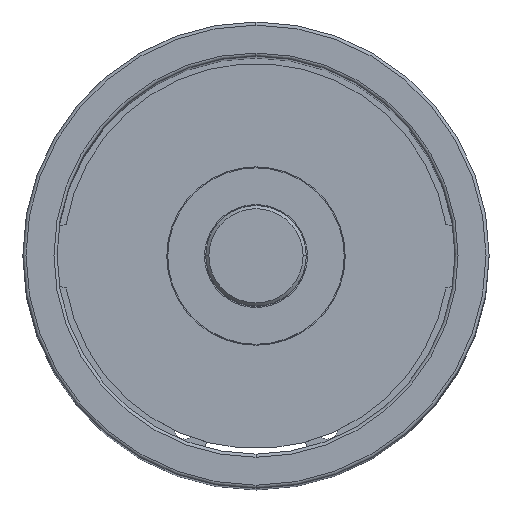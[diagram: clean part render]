
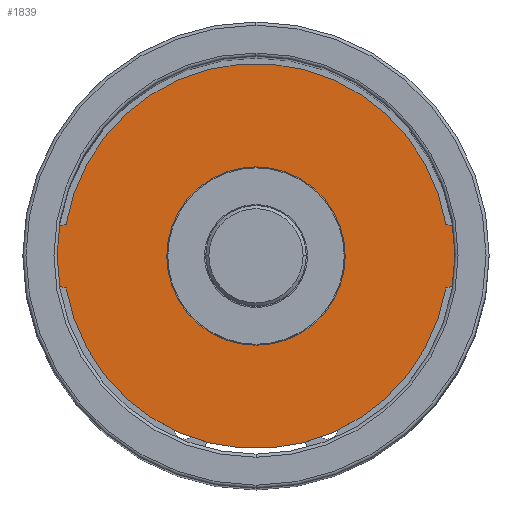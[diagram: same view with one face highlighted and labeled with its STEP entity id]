
A CAD part, top view. The second image highlights one B-rep face of the part: STEP entity #1839.
In plain terms, the highlighted planar face has unit normal (0, 0, 1).
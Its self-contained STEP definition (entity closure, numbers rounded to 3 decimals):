
#1701=CARTESIAN_POINT('',(14.2,0.,0.));
#1702=VERTEX_POINT('',#1701);
#1718=CARTESIAN_POINT('',(-14.2,0.,0.0));
#1719=VERTEX_POINT('',#1718);
#1726=CARTESIAN_POINT('',(0.0,0.,0.));
#1727=DIRECTION('',(0.0,0.0,-1.0));
#1728=DIRECTION('',(1.0,0.0,0.0));
#1729=AXIS2_PLACEMENT_3D('',#1726,#1727,#1728);
#1730=CIRCLE('',#1729,14.2);
#1731=EDGE_CURVE('',#1702,#1719,#1730,.T.);
#1742=CARTESIAN_POINT('',(0.0,0.,0.));
#1743=DIRECTION('',(0.0,0.0,-1.0));
#1744=DIRECTION('',(1.0,0.0,0.0));
#1745=AXIS2_PLACEMENT_3D('',#1742,#1743,#1744);
#1746=CIRCLE('',#1745,14.2);
#1747=EDGE_CURVE('',#1719,#1702,#1746,.T.);
#1767=CARTESIAN_POINT('',(-30.226,5.082,0.));
#1768=VERTEX_POINT('',#1767);
#1784=CARTESIAN_POINT('',(-30.226,-5.082,0.));
#1785=VERTEX_POINT('',#1784);
#1792=CARTESIAN_POINT('',(-29.125,0.,0.));
#1793=DIRECTION('',(0.0,0.0,-1.0));
#1794=DIRECTION('',(1.0,0.0,0.0));
#1795=AXIS2_PLACEMENT_3D('',#1792,#1793,#1794);
#1796=CIRCLE('',#1795,5.2);
#1797=EDGE_CURVE('',#1785,#1768,#1796,.T.);
#1802=CARTESIAN_POINT('',(0.0,0.,0.));
#1803=DIRECTION('',(0.0,0.0,1.0));
#1804=DIRECTION('',(1.0,0.0,0.0));
#1805=AXIS2_PLACEMENT_3D('',#1802,#1803,#1804);
#1806=PLANE('',#1805);
#1807=CARTESIAN_POINT('',(30.226,-5.082,0.));
#1808=VERTEX_POINT('',#1807);
#1809=CARTESIAN_POINT('',(0.0,0.,0.));
#1810=DIRECTION('',(0.0,0.0,-1.0));
#1811=DIRECTION('',(1.0,0.0,0.0));
#1812=AXIS2_PLACEMENT_3D('',#1809,#1810,#1811);
#1813=CIRCLE('',#1812,30.65);
#1814=EDGE_CURVE('',#1808,#1785,#1813,.T.);
#1815=ORIENTED_EDGE('',*,*,#1814,.F.);
#1816=CARTESIAN_POINT('',(30.226,5.082,0.));
#1817=VERTEX_POINT('',#1816);
#1818=CARTESIAN_POINT('',(29.125,0.,0.));
#1819=DIRECTION('',(0.0,0.0,-1.0));
#1820=DIRECTION('',(1.0,0.0,0.0));
#1821=AXIS2_PLACEMENT_3D('',#1818,#1819,#1820);
#1822=CIRCLE('',#1821,5.2);
#1823=EDGE_CURVE('',#1817,#1808,#1822,.T.);
#1824=ORIENTED_EDGE('',*,*,#1823,.F.);
#1825=CARTESIAN_POINT('',(0.0,0.,0.));
#1826=DIRECTION('',(0.0,0.0,-1.0));
#1827=DIRECTION('',(1.0,0.0,0.0));
#1828=AXIS2_PLACEMENT_3D('',#1825,#1826,#1827);
#1829=CIRCLE('',#1828,30.65);
#1830=EDGE_CURVE('',#1768,#1817,#1829,.T.);
#1831=ORIENTED_EDGE('',*,*,#1830,.F.);
#1832=ORIENTED_EDGE('',*,*,#1797,.F.);
#1833=EDGE_LOOP('',(#1815,#1824,#1831,#1832));
#1834=FACE_OUTER_BOUND('',#1833,.T.);
#1835=ORIENTED_EDGE('',*,*,#1731,.T.);
#1836=ORIENTED_EDGE('',*,*,#1747,.T.);
#1837=EDGE_LOOP('',(#1835,#1836));
#1838=FACE_BOUND('',#1837,.T.);
#1839=ADVANCED_FACE('',(#1834,#1838),#1806,.T.);
